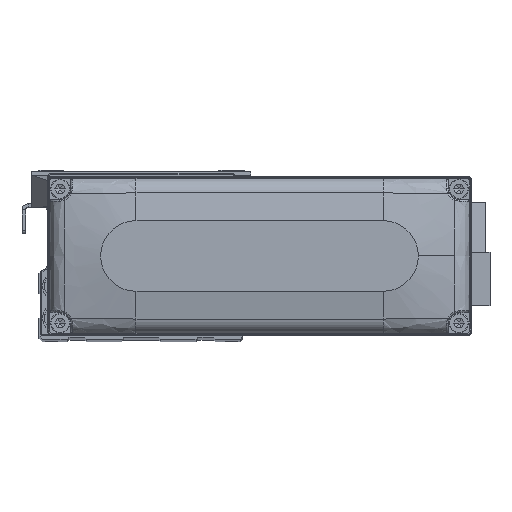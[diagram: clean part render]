
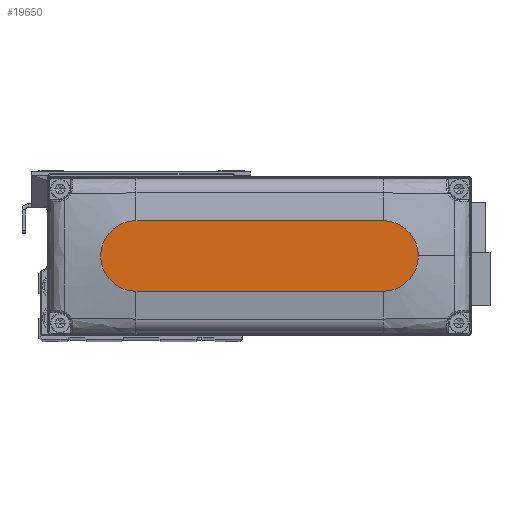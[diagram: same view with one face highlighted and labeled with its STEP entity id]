
A CAD part, top view. The second image highlights one B-rep face of the part: STEP entity #19650.
In plain terms, the highlighted planar face has unit normal (0, 0, 1).
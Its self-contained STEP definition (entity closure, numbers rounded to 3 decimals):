
#154 = LINE ( 'NONE', #13197, #34299 ) ;
#646 = ORIENTED_EDGE ( 'NONE', *, *, #8792, .T. ) ;
#1457 = AXIS2_PLACEMENT_3D ( 'NONE', #41170, #11999, #24998 ) ;
#2193 = CARTESIAN_POINT ( 'NONE',  ( 45., 0., 28. ) ) ;
#2334 = CARTESIAN_POINT ( 'NONE',  ( -35., 0., 28. ) ) ;
#5901 = DIRECTION ( 'NONE',  ( 1., 0., 0. ) ) ;
#7534 = VERTEX_POINT ( 'NONE', #25589 ) ;
#7952 = CARTESIAN_POINT ( 'NONE',  ( 35., 0., 28. ) ) ;
#8792 = EDGE_CURVE ( 'NONE', #7534, #12227, #36498, .T. ) ;
#9093 = PLANE ( 'NONE',  #39815 ) ;
#9456 = CARTESIAN_POINT ( 'NONE',  ( -35., -10., 28. ) ) ;
#9776 = CARTESIAN_POINT ( 'NONE',  ( -35., -10., 28. ) ) ;
#11999 = DIRECTION ( 'NONE',  ( 0., 0., 1. ) ) ;
#12227 = VERTEX_POINT ( 'NONE', #9456 ) ;
#12371 = ORIENTED_EDGE ( 'NONE', *, *, #37461, .T. ) ;
#13197 = CARTESIAN_POINT ( 'NONE',  ( -35., 10., 28. ) ) ;
#13474 = ORIENTED_EDGE ( 'NONE', *, *, #14455, .T. ) ;
#14455 = EDGE_CURVE ( 'NONE', #12227, #36887, #38971, .T. ) ;
#15372 = DIRECTION ( 'NONE',  ( 0., 0., 1. ) ) ;
#15432 = VECTOR ( 'NONE', #22801, 1000. ) ;
#17922 = CIRCLE ( 'NONE', #41717, 10. ) ;
#18135 = AXIS2_PLACEMENT_3D ( 'NONE', #2334, #15372, #28377 ) ;
#19650 = ADVANCED_FACE ( 'NONE', ( #38293 ), #9093, .T. ) ;
#19876 = CIRCLE ( 'NONE', #1457, 10. ) ;
#20976 = DIRECTION ( 'NONE',  ( 0., 0., 1. ) ) ;
#22117 = CARTESIAN_POINT ( 'NONE',  ( 0., 0., 28. ) ) ;
#22801 = DIRECTION ( 'NONE',  ( 1., 0., 0. ) ) ;
#24998 = DIRECTION ( 'NONE',  ( 1., 0., 0. ) ) ;
#25589 = CARTESIAN_POINT ( 'NONE',  ( -35., 10., 28. ) ) ;
#26198 = DIRECTION ( 'NONE',  ( -1., 0., 0. ) ) ;
#28377 = DIRECTION ( 'NONE',  ( 1., 0., 0. ) ) ;
#28455 = CARTESIAN_POINT ( 'NONE',  ( 35., -10., 28. ) ) ;
#33083 = EDGE_LOOP ( 'NONE', ( #12371, #646, #13474, #42023, #38301 ) ) ;
#33979 = DIRECTION ( 'NONE',  ( 1., 0., 0. ) ) ;
#34299 = VECTOR ( 'NONE', #26198, 1000. ) ;
#35118 = DIRECTION ( 'NONE',  ( 0., 0., 1. ) ) ;
#35548 = EDGE_CURVE ( 'NONE', #36880, #39473, #19876, .T. ) ;
#36498 = CIRCLE ( 'NONE', #18135, 10. ) ;
#36880 = VERTEX_POINT ( 'NONE', #2193 ) ;
#36887 = VERTEX_POINT ( 'NONE', #28455 ) ;
#37298 = CARTESIAN_POINT ( 'NONE',  ( 35., 10., 28. ) ) ;
#37461 = EDGE_CURVE ( 'NONE', #39473, #7534, #154, .T. ) ;
#38293 = FACE_OUTER_BOUND ( 'NONE', #33083, .T. ) ;
#38301 = ORIENTED_EDGE ( 'NONE', *, *, #35548, .T. ) ;
#38590 = EDGE_CURVE ( 'NONE', #36887, #36880, #17922, .T. ) ;
#38971 = LINE ( 'NONE', #9776, #15432 ) ;
#39473 = VERTEX_POINT ( 'NONE', #37298 ) ;
#39815 = AXIS2_PLACEMENT_3D ( 'NONE', #22117, #35118, #5901 ) ;
#41170 = CARTESIAN_POINT ( 'NONE',  ( 35., 0., 28. ) ) ;
#41717 = AXIS2_PLACEMENT_3D ( 'NONE', #7952, #20976, #33979 ) ;
#42023 = ORIENTED_EDGE ( 'NONE', *, *, #38590, .T. ) ;
